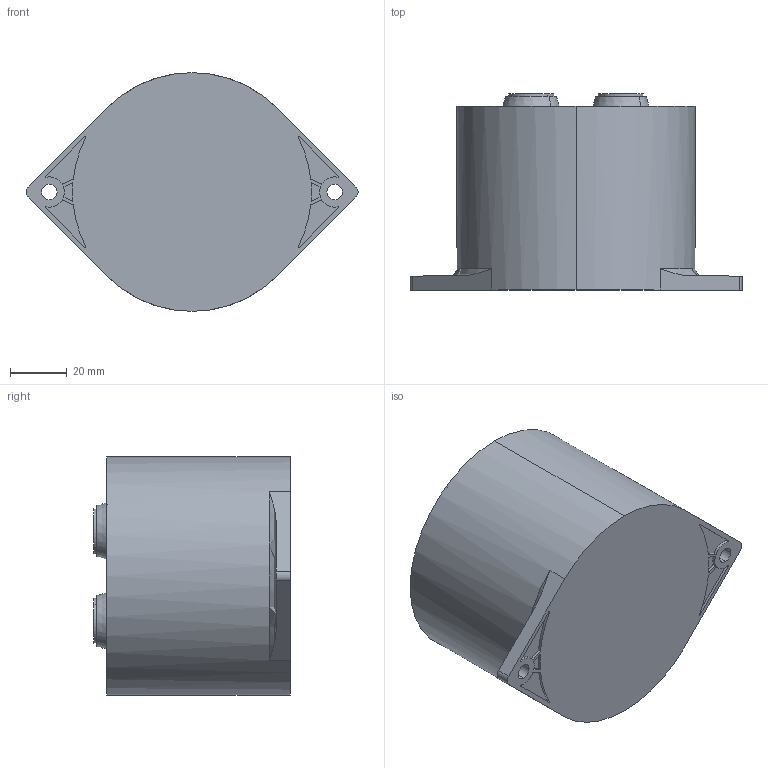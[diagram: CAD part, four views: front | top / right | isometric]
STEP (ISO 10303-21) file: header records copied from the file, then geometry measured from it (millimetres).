
FILE_DESCRIPTION (( 'STEP AP203' ), '1' );
FILE_NAME ('B25632B_85x65_69.STEP', '2021-11-09T02:25:00', ( '' ), ( '' ), 'SwSTEP 2.0', 'SolidWorks 2017', '' );
FILE_SCHEMA (( 'CONFIG_CONTROL_DESIGN' ));
Length unit declared in the file: millimetre
Products named in the file (1): B25632B_85x65_69
Bounding box: 117.48 x 69.5 x 84.5 mm (x, y, z)
Volume: 57965.9 mm3; surface area: 58469.7 mm2
Topology: 1 solids, 4 shells, 223 faces, 561 edges, 364 vertices
Faces by surface type: cylinder 101, plane 100, cone 20, torus 2
Entity records: 6802 total; most frequent: DIRECTION 1221, CARTESIAN_POINT 1173, ORIENTED_EDGE 1114, EDGE_CURVE 557, AXIS2_PLACEMENT_3D 444, VERTEX_POINT 364, LINE 333, VECTOR 333
